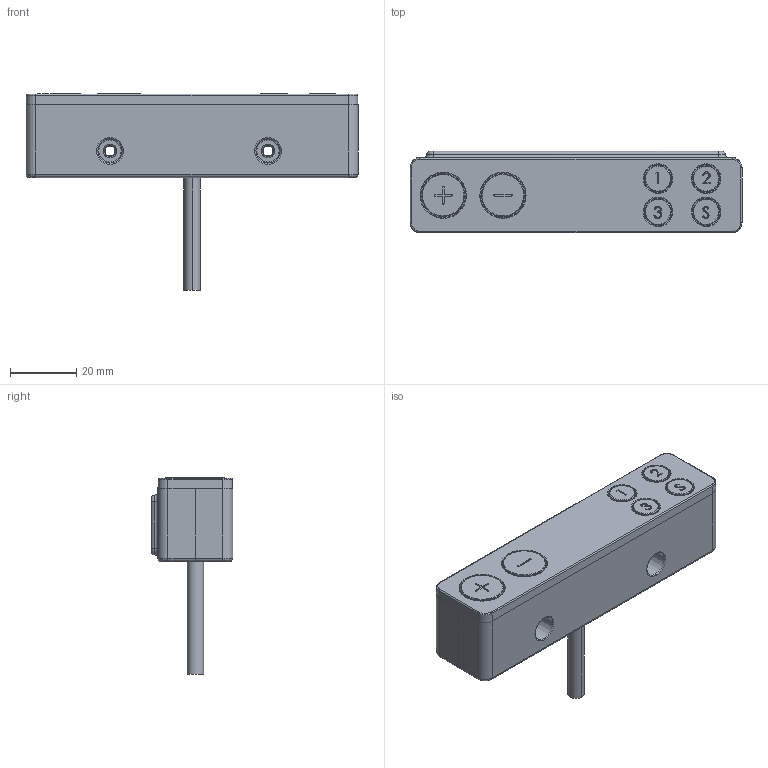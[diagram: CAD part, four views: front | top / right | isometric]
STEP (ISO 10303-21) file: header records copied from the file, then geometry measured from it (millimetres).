
FILE_DESCRIPTION (( 'STEP AP203' ), '1' );
FILE_NAME ('TDH3.STEP', '2015-01-05T03:04:36', ( '' ), ( '' ), 'SwSTEP 2.0', 'SolidWorks 2010', '' );
FILE_SCHEMA (( 'CONFIG_CONTROL_DESIGN' ));
Length unit declared in the file: millimetre
Products named in the file (1): TDH3
Bounding box: 100 x 24.5 x 59.3 mm (x, y, z)
Volume: 59095.7 mm3; surface area: 22699.6 mm2
Topology: 14 solids, 14 shells, 319 faces, 765 edges, 492 vertices
Faces by surface type: plane 140, bspline 85, cylinder 50, cone 40, torus 4
Entity records: 16206 total; most frequent: CARTESIAN_POINT 9221, ORIENTED_EDGE 1530, DIRECTION 1257, EDGE_CURVE 765, VERTEX_POINT 492, AXIS2_PLACEMENT_3D 425, LINE 407, VECTOR 407
